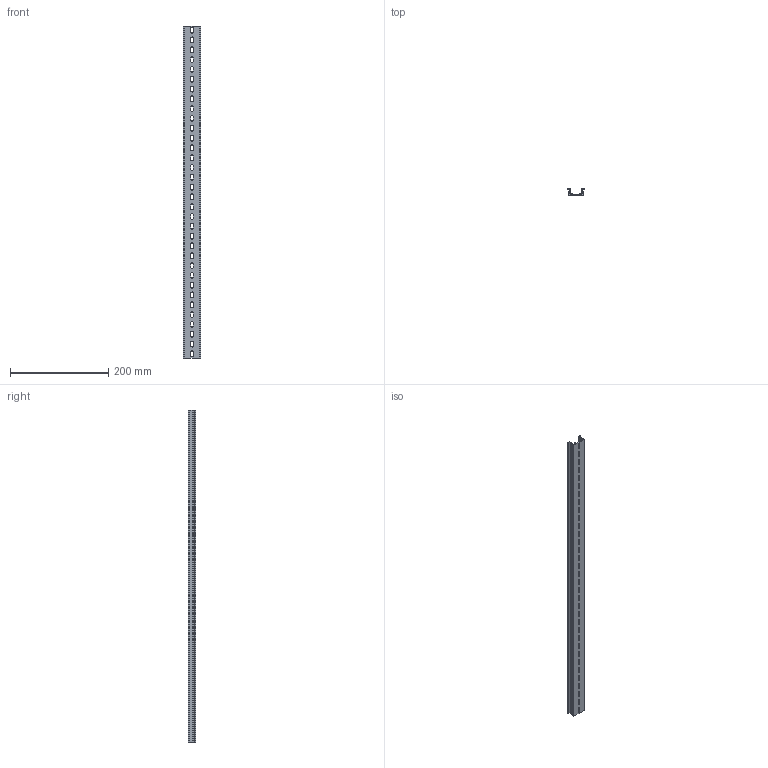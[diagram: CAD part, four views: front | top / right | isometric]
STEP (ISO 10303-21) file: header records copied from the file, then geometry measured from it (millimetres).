
FILE_DESCRIPTION(/* description */ (''),/* implementation_level */ '2;1');
FILE_NAME(/* name */ '22649-(TKB KD-34)HP 3D.stp',/* time_stamp */ '2024-12-05T14:13:26+09:00',/* author */ ('usercadg104'),/* organization */ (''),/* preprocessor_version */ 'ST-DEVELOPER v19.2',/* originating_system */ 'Autodesk Inventor 2023',/* authorisation */ '');
FILE_SCHEMA (('CONFIG_CONTROL_DESIGN'));
Length unit declared in the file: millimetre
Products named in the file (1): TKB KD-3(林)
Bounding box: 35 x 15 x 677 mm (x, y, z)
Volume: 79205.6 mm3; surface area: 91497.3 mm2
Topology: 1 solids, 1 shells, 176 faces, 522 edges, 348 vertices
Faces by surface type: plane 104, cylinder 72
Entity records: 6089 total; most frequent: CARTESIAN_POINT 1047, ORIENTED_EDGE 1044, DIRECTION 1020, EDGE_CURVE 522, LINE 378, VECTOR 378, VERTEX_POINT 348, AXIS2_PLACEMENT_3D 321
